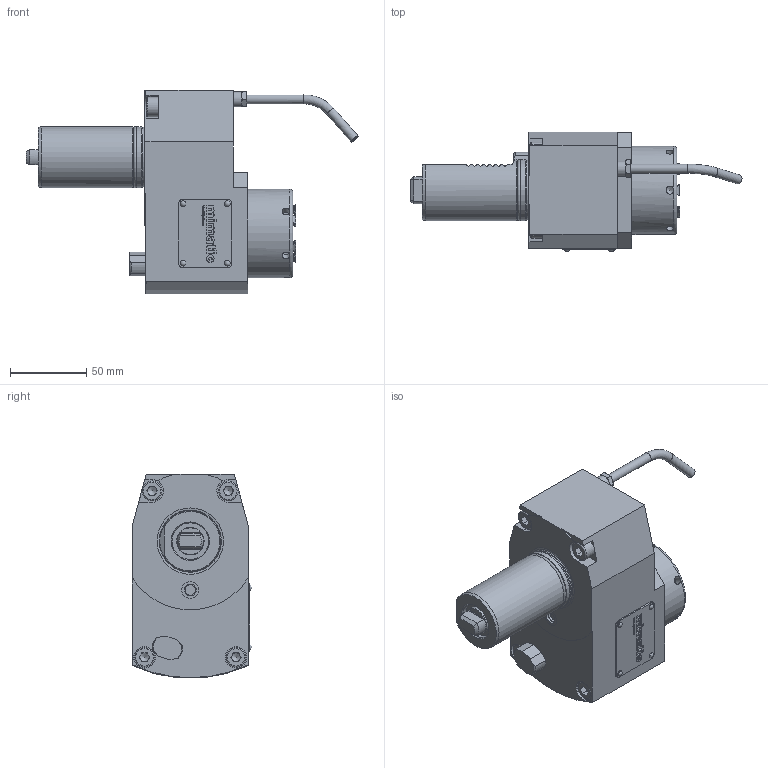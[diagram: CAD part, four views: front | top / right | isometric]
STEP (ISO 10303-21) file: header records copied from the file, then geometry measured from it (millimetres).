
FILE_DESCRIPTION(/* description */ (''),/* implementation_level */ '2;1');
FILE_NAME(/* name */ '191188',/* time_stamp */ '2020-01-14T09:49:54+01:00',/* author */ (''),/* organization */ (''),/* preprocessor_version */ 'ST-DEVELOPER v16.5',/* originating_system */ 'HiCAD 2017 2201.0 Build 268',/* authorisation */ '');
FILE_SCHEMA (('AUTOMOTIVE_DESIGN { 1 0 10303 214 1 1 1 1 }'));
Length unit declared in the file: millimetre
Products named in the file (7): Root; Teil; ABCDEFGHIJKLMNOPQRSTUVWXYZ[\]^_`ABCDEFGHIJKLMNOP㌠榁ɓ; GEWINDE; DIN 13-M40x1,5; DIN 76-M6
Assembly tree (6 placements, depth 3):
  Root
    Teil
      ABCDEFGHIJKLMNOPQRSTUVWXYZ[\]^_`ABCDEFGHIJKLMNOP㌠榁ɓ
      ABCDEFGHIJKLMNOPQRSTUVWXYZ[\]^_`ABCDEFGHIJKLMNOP㌠榁ɓ
      GEWINDE
      DIN 13-M40x1,5
      DIN 76-M6
Bounding box: 217.67 x 78.29 x 133.66 mm (x, y, z)
Volume: 742702.1 mm3; surface area: 84125 mm2
Topology: 8 solids, 18 shells, 687 faces, 1755 edges, 1153 vertices
Faces by surface type: plane 396, cylinder 190, bspline 38, cone 32, torus 27, sphere 4
Full cylindrical faces by diameter (mm): 2 x4, 2.2 x4, 4 x2, 4.773 x2, 5 x1, 5.1 x6, 5.8 x1, 6 x6, 6.8 x1, 7.65 x1, 8.773 x2, 9 x5, 10 x1, 11.01 x1, 11.1 x1, 13 x4, 14 x2, 18 x1, 23.5 x1, 24 x1, 27 x1, 36.7 x1, 38.16 x2, 38.5 x1, 39.4 x1, 40 x5, 40.5 x1, 58 x1
Entity records: 43834 total; most frequent: CARTESIAN_POINT 9682, PRESENTATION_STYLE_ASSIGNMENT 3583, OVER_RIDING_STYLED_ITEM 3577, COLOUR_RGB 3188, DRAUGHTING_PRE_DEFINED_CURVE_FONT 3186, CURVE_STYLE 3186, ORIENTED_EDGE 3186, DIRECTION 3094
